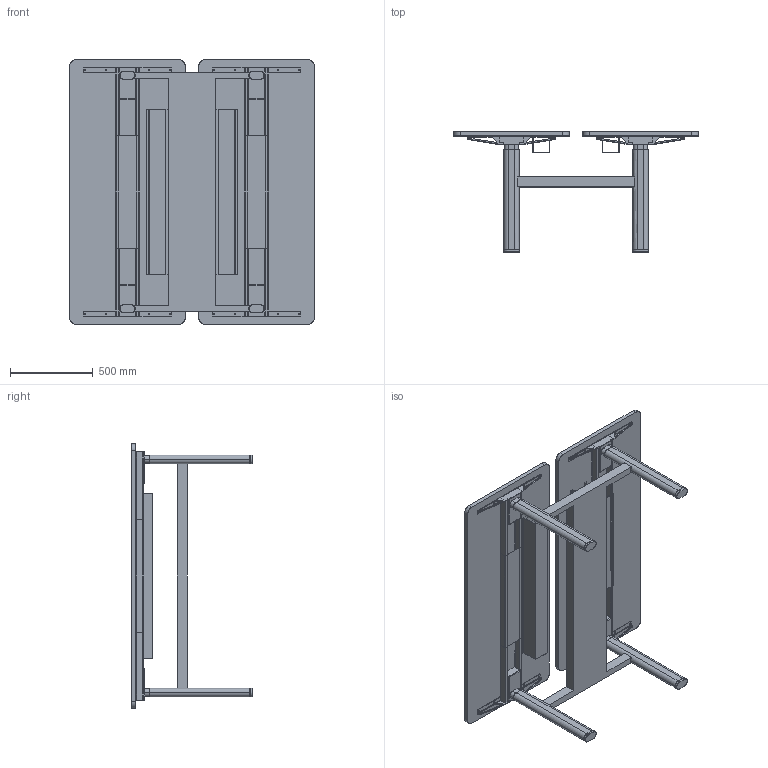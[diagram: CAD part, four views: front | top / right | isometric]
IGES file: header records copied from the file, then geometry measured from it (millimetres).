
Start section: SolidWorks IGES file using analytic representation for surfaces
Global section: file name: C:\Users\simone.cerana\OneDrive - Gruppo Tecno\Desktop\CHINA\DISEGNI DI SERIE\ASSIEMI LISTINO\AXIS LISTINO\FULL OPT\AX1614FO.IGS; native system: SolidWorks 2024; preprocessor: SolidWorks 2024; author: simone.cerana; date: 260512.110509; units: millimetre
Bounding box: 1480 x 730.14 x 1600 mm (x, y, z)
Surface area: 9082603.7 mm2 (no closed solid volume)
Topology: 0 solids, 0 shells, 622 faces, 6976 edges, 6968 vertices
Faces by surface type: bspline 334, revolution 288
